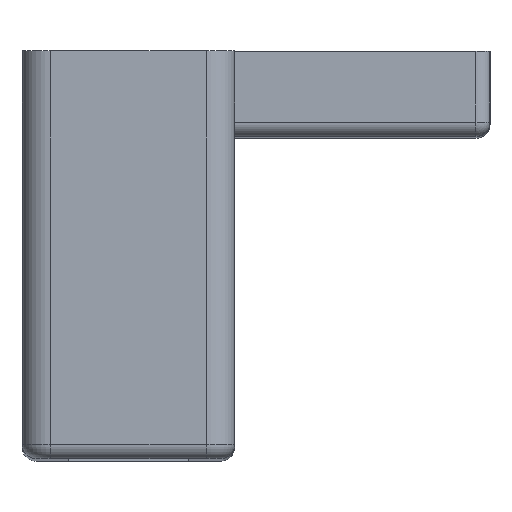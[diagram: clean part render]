
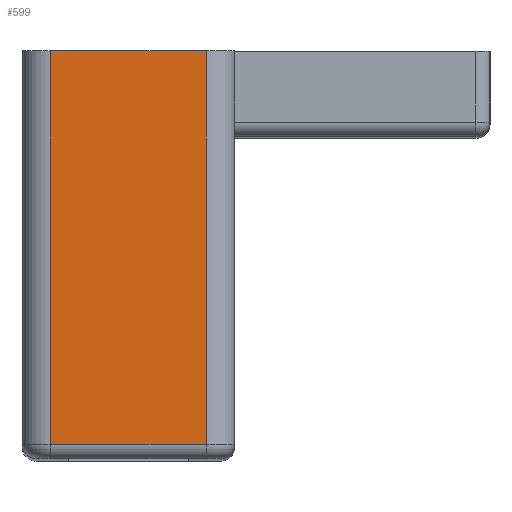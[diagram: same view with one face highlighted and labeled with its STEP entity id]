
A CAD part, top view. The second image highlights one B-rep face of the part: STEP entity #599.
In plain terms, the highlighted planar face has unit normal (0, 0, 1).
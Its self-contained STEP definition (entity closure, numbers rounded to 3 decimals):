
#33 = EDGE_CURVE ( 'NONE', #1201, #699, #1573, .T. ) ;
#61 = AXIS2_PLACEMENT_3D ( 'NONE', #666, #922, #1139 ) ;
#127 = EDGE_CURVE ( 'NONE', #1201, #1168, #1398, .T. ) ;
#171 = EDGE_CURVE ( 'NONE', #825, #699, #1443, .T. ) ;
#185 = EDGE_CURVE ( 'NONE', #1168, #825, #1636, .T. ) ;
#289 = EDGE_LOOP ( 'NONE', ( #540, #485, #545, #557 ) ) ;
#485 = ORIENTED_EDGE ( 'NONE', *, *, #127, .T. ) ;
#540 = ORIENTED_EDGE ( 'NONE', *, *, #33, .F. ) ;
#545 = ORIENTED_EDGE ( 'NONE', *, *, #185, .T. ) ;
#557 = ORIENTED_EDGE ( 'NONE', *, *, #171, .T. ) ;
#599 = ADVANCED_FACE ( 'NONE', ( #1541 ), #1116, .F. ) ;
#666 = CARTESIAN_POINT ( 'NONE',  ( 5.5, 0., 98.5 ) ) ;
#694 = CARTESIAN_POINT ( 'NONE',  ( -5.5, 0., 98.5 ) ) ;
#697 = CARTESIAN_POINT ( 'NONE',  ( 5.5, 1., 98.5 ) ) ;
#699 = VERTEX_POINT ( 'NONE', #987 ) ;
#702 = CARTESIAN_POINT ( 'NONE',  ( 5.5, 28.75, 98.5 ) ) ;
#704 = DIRECTION ( 'NONE',  ( 0., 1., 0. ) ) ;
#825 = VERTEX_POINT ( 'NONE', #702 ) ;
#922 = DIRECTION ( 'NONE',  ( 0., 0., -1. ) ) ;
#936 = CARTESIAN_POINT ( 'NONE',  ( 5.5, 28.75, 98.5 ) ) ;
#939 = DIRECTION ( 'NONE',  ( -1., 0., 0. ) ) ;
#987 = CARTESIAN_POINT ( 'NONE',  ( -5.5, 28.75, 98.5 ) ) ;
#998 = CARTESIAN_POINT ( 'NONE',  ( 5.5, 0., 98.5 ) ) ;
#1000 = DIRECTION ( 'NONE',  ( 0., 1., 0. ) ) ;
#1023 = DIRECTION ( 'NONE',  ( 1., 0., 0. ) ) ;
#1116 = PLANE ( 'NONE',  #61 ) ;
#1139 = DIRECTION ( 'NONE',  ( 0., 1., 0. ) ) ;
#1168 = VERTEX_POINT ( 'NONE', #1280 ) ;
#1201 = VERTEX_POINT ( 'NONE', #1284 ) ;
#1280 = CARTESIAN_POINT ( 'NONE',  ( 5.5, 1., 98.5 ) ) ;
#1284 = CARTESIAN_POINT ( 'NONE',  ( -5.5, 1., 98.5 ) ) ;
#1382 = VECTOR ( 'NONE', #1023, 1000. ) ;
#1398 = LINE ( 'NONE', #697, #1382 ) ;
#1438 = VECTOR ( 'NONE', #704, 1000. ) ;
#1443 = LINE ( 'NONE', #936, #1468 ) ;
#1468 = VECTOR ( 'NONE', #939, 1000. ) ;
#1541 = FACE_OUTER_BOUND ( 'NONE', #289, .T. ) ;
#1573 = LINE ( 'NONE', #694, #1438 ) ;
#1624 = VECTOR ( 'NONE', #1000, 1000. ) ;
#1636 = LINE ( 'NONE', #998, #1624 ) ;
